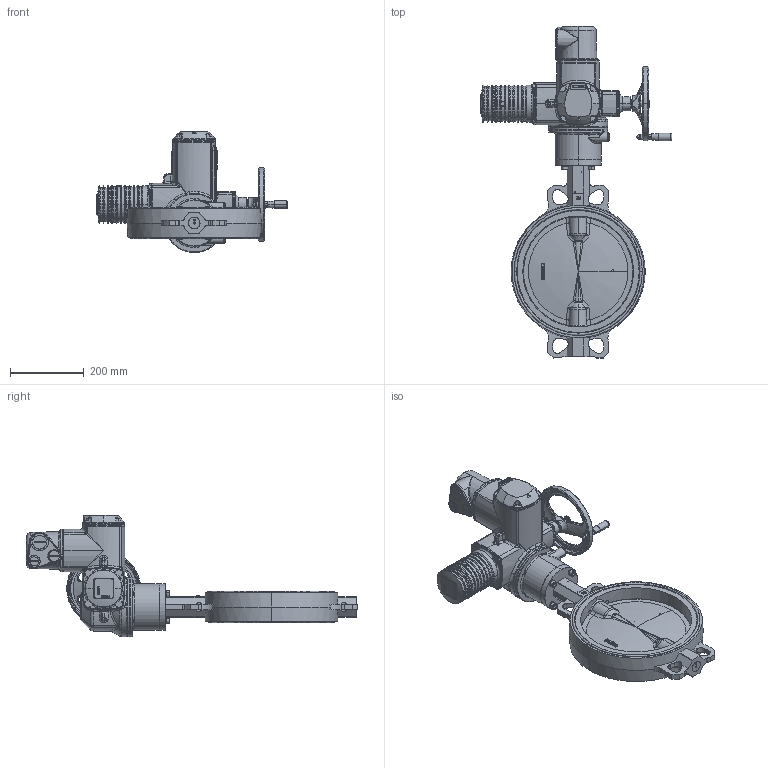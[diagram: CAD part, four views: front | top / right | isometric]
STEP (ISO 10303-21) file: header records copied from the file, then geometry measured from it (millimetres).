
FILE_DESCRIPTION (( 'STEP AP203' ), '1' );
FILE_NAME ('VPI-U04 DN300.step', '2016-09-29T16:08:53', ( 'TECOFI' ), ( '' ), 'SwSTEP 2.0', 'SolidWorks 2014', '' );
FILE_SCHEMA (( 'CONFIG_CONTROL_DESIGN' ));
Length unit declared in the file: millimetre
Products named in the file (1): VPI-U04 DN300
Bounding box: 519.2 x 898 x 327.8 mm (x, y, z)
Volume: 13732058.9 mm3; surface area: 1204284.6 mm2
Topology: 37 solids, 37 shells, 3515 faces, 8497 edges, 5051 vertices
Faces by surface type: bspline 1236, plane 879, cylinder 639, torus 359, cone 323, sphere 79
Entity records: 207894 total; most frequent: CARTESIAN_POINT 135209, ORIENTED_EDGE 16722, DIRECTION 12810, EDGE_CURVE 8361, VERTEX_POINT 5047, AXIS2_PLACEMENT_3D 4947, EDGE_LOOP 3672, FACE_OUTER_BOUND 3515
